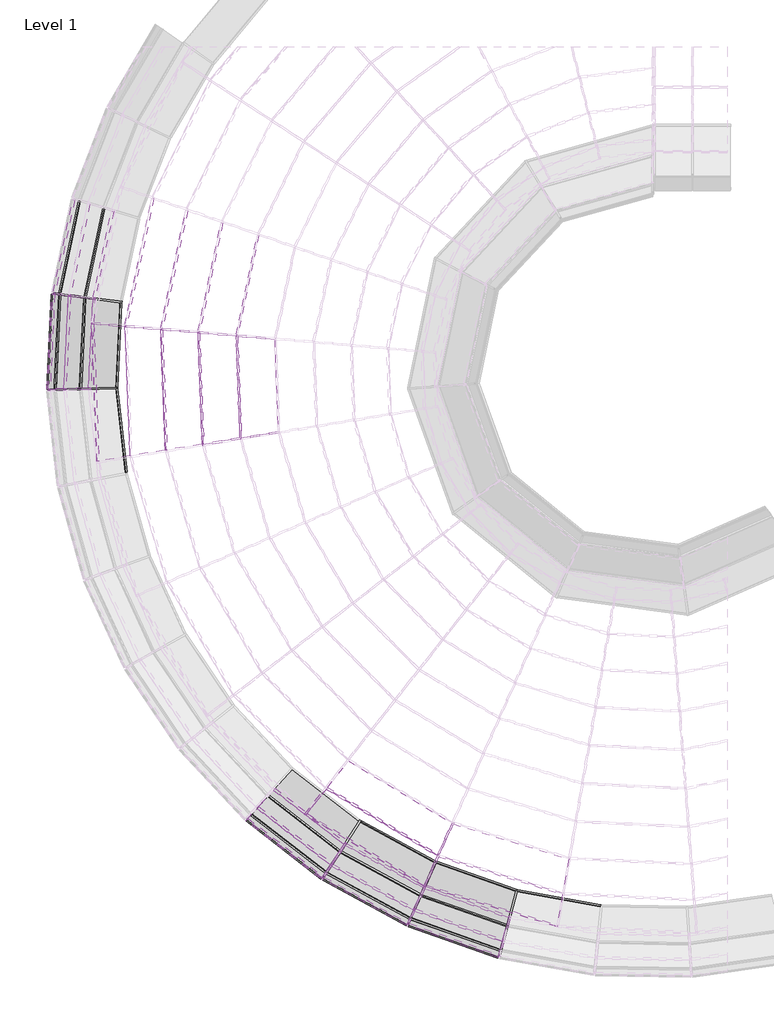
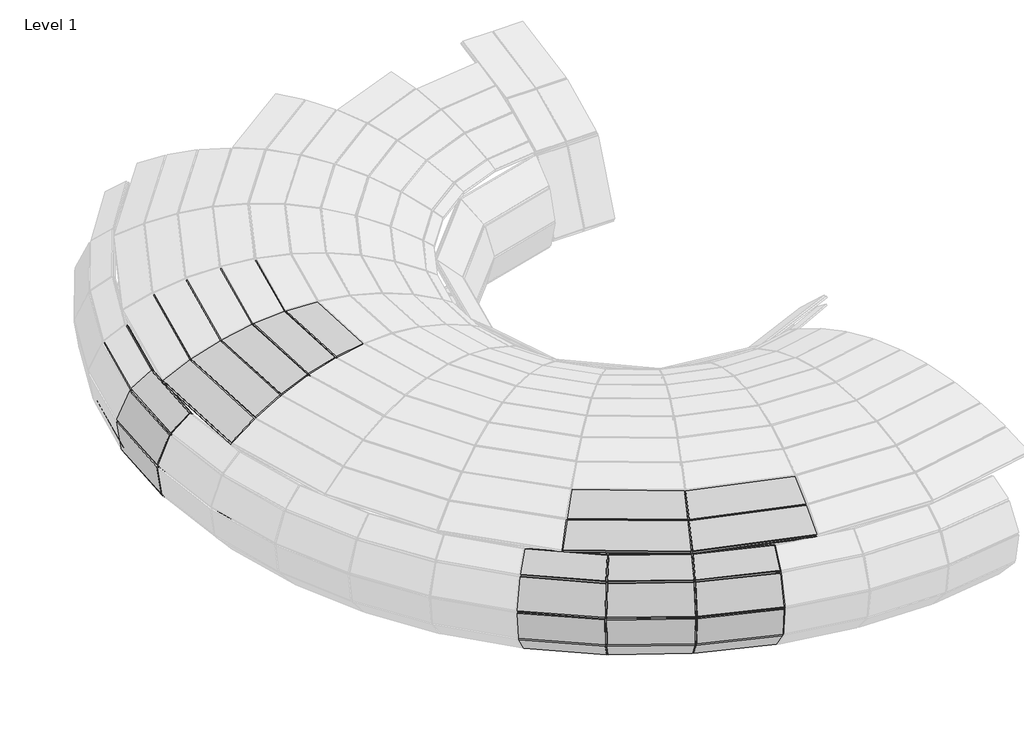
# One storey, part 2 of 23: 76 members, 29 plates.
"""IFC4 building model written with IfcOpenShell, lengths in millimetres."""

from ifc_helpers import new_model, si_unit, origin, place, context, project, spatial, transform, mapped, element, save
from components import member_d6b8231b, member_8c9da58c, member_391bee44, member_01ebdf2a, member_0cd36c09, member_e4cc2466, member_6c4aaba8, member_0ea93e7c, member_01d9c279, member_12c77cbe, member_af15374c, member_9c203333, member_86c07ba8, member_0e8a41c0, member_f532ae18, member_ff5bcfe9, member_5080b2ef, system_panel_glazed_a6d149b5, system_panel_glazed_185472ef, system_panel_glazed_d90a1b68, system_panel_glazed_7d733e69, system_panel_glazed_1f33159c, system_panel_glazed_020edd5b, system_panel_glazed_973a940c, system_panel_glazed_7e9fb579, system_panel_glazed_aab04364, system_panel_glazed_9094d4f4

model = new_model("IFC4")

# Units and contexts
model_context = context("Model", 3, world=origin())
ifc_project = project(units=[si_unit("LENGTHUNIT", "METRE", prefix="MILLI")], contexts=[model_context])

# Site, building, storey
site = spatial("IfcSite", under=ifc_project)
building = spatial("IfcBuilding", under=site)
storey = spatial("IfcBuildingStorey", under=building, Name="Level 1", Elevation=0.0)

# Members
placement = place(None, origin())
member_shape = member_d6b8231b(model_context)
element("IfcMember", 1, ObjectType="Rectangular Mullion : 1\" Square", at=placement, inside=storey, context=model_context, shape_type="MappedRepresentation", body=[
    mapped(member_shape, transform((-12070.44883, -9524.7265693, 0.0), x_axis=(0.9669205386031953, -0.2550777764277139, 0.0), y_axis=(-0.07149770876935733, -0.27102558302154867, -0.9599131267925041), z_axis=(0.2448525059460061, 0.9281597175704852, -0.28029767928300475))),
])
element("IfcMember", 2, ObjectType="Rectangular Mullion : 1\" Square", at=placement, inside=storey, context=model_context, shape_type="MappedRepresentation", body=[
    mapped(member_shape, transform((-13347.4345709, -9075.8381968, 0.0), x_axis=(0.913849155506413, -0.4060538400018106, 0.0), y_axis=(-0.11381594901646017, -0.25614979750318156, -0.959913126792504), z_axis=(0.38977641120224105, 0.8772158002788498, -0.2802976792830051))),
])
element("IfcMember", 3, ObjectType="Rectangular Mullion : 1\" Square", at=placement, inside=storey, context=model_context, shape_type="MappedRepresentation", body=[
    mapped(member_shape, transform((-14536.4619818, -8428.9941896, 0.0), x_axis=(0.8373737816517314, -0.5466307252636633, 0.0), y_axis=(-0.15321932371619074, -0.23471392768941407, -0.959913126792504), z_axis=(0.5247180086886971, 0.8038060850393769, -0.28029767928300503))),
])
element("IfcMember", 4, ObjectType="Rectangular Mullion : 1\" Square", at=placement, inside=storey, context=model_context, shape_type="MappedRepresentation", body=[
    mapped(member_shape, transform((-18367.0231077, -1610.5063544, 0.0), x_axis=(0.031234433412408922, -0.9995120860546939, 0.0), y_axis=(-0.2801609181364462, -0.008754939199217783, -0.9599131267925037), z_axis=(0.9594447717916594, 0.029982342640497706, -0.2802976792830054))),
])
element("IfcMember", 5, ObjectType="Rectangular Mullion : 1\" Square", at=placement, inside=storey, context=model_context, shape_type="MappedRepresentation", body=[
    mapped(member_shape, transform((-18300.9101584, -258.5365206, 0.0), x_axis=(-0.1286068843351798, -0.9916956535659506, 0.0), y_axis=(-0.2779699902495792, 0.0360482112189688, -0.9599131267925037), z_axis=(0.9519416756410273, -0.12345143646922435, -0.2802976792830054))),
])
member_2_shape = member_8c9da58c(model_context)
element("IfcMember", 6, ObjectType="Rectangular Mullion : 1\" Square", at=placement, inside=storey, context=model_context, shape_type="MappedRepresentation", body=[
    mapped(member_2_shape, transform((-18881.2138039, -183.2805249, 170.8694653), x_axis=(-0.12860688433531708, -0.9916956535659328, 0.0), y_axis=(-0.7465531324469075, 0.09681586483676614, -0.6582439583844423), z_axis=(0.6527776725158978, -0.08465470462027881, -0.7528046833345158))),
])
element("IfcMember", 7, ObjectType="Rectangular Mullion : 1\" Square", at=placement, inside=storey, context=model_context, shape_type="MappedRepresentation", body=[
    mapped(member_2_shape, transform((-19279.147073, -131.675017, 629.7792003), x_axis=(-0.12860688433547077, -0.9916956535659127, 0.0), y_axis=(-0.9805191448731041, 0.12715747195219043, -0.1497103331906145), z_axis=(0.14846708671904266, -0.019253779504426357, -0.988729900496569))),
])
element("IfcMember", 8, ObjectType="Rectangular Mullion : 1\" Square", at=placement, inside=storey, context=model_context, shape_type="MappedRepresentation", body=[
    mapped(member_2_shape, transform((-18951.9006405, -1628.7835904, 170.8694653), x_axis=(0.031234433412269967, -0.9995120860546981, 0.0), y_axis=(-0.7524373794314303, -0.023513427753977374, -0.658243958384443), z_axis=(0.6579227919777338, 0.020559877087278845, -0.7528046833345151))),
])
element("IfcMember", 9, ObjectType="Rectangular Mullion : 1\" Square", at=placement, inside=storey, context=model_context, shape_type="MappedRepresentation", body=[
    mapped(member_2_shape, transform((-14856.3300799, -8918.9943791, 170.8694653), x_axis=(0.8373737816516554, -0.5466307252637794, 0.0), y_axis=(-0.4115061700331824, -0.6303789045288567, -0.6582439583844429), z_axis=(0.3598163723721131, 0.5511962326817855, -0.7528046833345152))),
])
element("IfcMember", 10, ObjectType="Rectangular Mullion : 1\" Square", at=placement, inside=storey, context=model_context, shape_type="MappedRepresentation", body=[
    mapped(member_2_shape, transform((-13585.0422712, -9610.5889486, 170.8694653), x_axis=(0.9138491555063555, -0.40605384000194, 0.0), y_axis=(-0.3056792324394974, -0.6879499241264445, -0.658243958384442), z_axis=(0.2672824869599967, 0.6015356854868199, -0.7528046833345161))),
])
element("IfcMember", 11, ObjectType="Rectangular Mullion : 1\" Square", at=placement, inside=storey, context=model_context, shape_type="MappedRepresentation", body=[
    mapped(member_2_shape, transform((-12219.7109176, -10090.5327331, 170.8694653), x_axis=(0.9669205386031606, -0.2550777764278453, 0.0), y_axis=(-0.1920237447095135, -0.7279023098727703, -0.6582439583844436), z_axis=(0.1679034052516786, 0.6364696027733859, -0.7528046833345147))),
])
member_3_shape = member_391bee44(model_context)
element("IfcMember", 12, ObjectType="Rectangular Mullion : 1\" Square", at=placement, inside=storey, context=model_context, shape_type="MappedRepresentation", body=[
    mapped(member_3_shape, transform((-19369.6526091, -119.937913, 1232.5089476), x_axis=(-0.12860688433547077, -0.9916956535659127, 0.0), y_axis=(-0.9063401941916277, 0.11753766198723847, 0.4058723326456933), z_axis=(-0.4025018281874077, 0.05219797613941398, -0.9139297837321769))),
])
member_4_shape = member_01ebdf2a(model_context)
element("IfcMember", 13, ObjectType="Rectangular Mullion : 1\" Square", at=placement, inside=storey, context=model_context, shape_type="MappedRepresentation", body=[
    mapped(member_4_shape, transform((-19124.2874946, -151.7577992, 1789.6405438), x_axis=(-0.1286068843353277, -0.9916956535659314, 0.0), y_axis=(-0.5909117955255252, 0.07663170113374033, 0.8030883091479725), z_axis=(-0.7964191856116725, 0.10328268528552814, -0.5958600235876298))),
])
element("IfcMember", 14, ObjectType="Rectangular Mullion : 1\" Square", at=placement, inside=storey, context=model_context, shape_type="MappedRepresentation", body=[
    mapped(member_2_shape, transform((-19352.9703745, -1641.3168915, 629.7792003), x_axis=(0.031234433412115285, -0.9995120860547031, 0.0), y_axis=(-0.9882474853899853, -0.030882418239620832, -0.14971033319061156), z_axis=(0.14963728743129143, 0.0046761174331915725, -0.9887299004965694))),
])
element("IfcMember", 15, ObjectType="Rectangular Mullion : 1\" Square", at=placement, inside=storey, context=model_context, shape_type="MappedRepresentation", body=[
    mapped(member_2_shape, transform((-15075.6741405, -9255.0036025, 629.7792003), x_axis=(0.8373737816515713, -0.5466307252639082, 0.0), y_axis=(-0.5404701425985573, -0.8279364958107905, -0.1497103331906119), z_axis=(0.08183626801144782, 0.12536350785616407, -0.9887299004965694))),
])
element("IfcMember", 16, ObjectType="Rectangular Mullion : 1\" Square", at=placement, inside=storey, context=model_context, shape_type="MappedRepresentation", body=[
    mapped(member_2_shape, transform((-13747.9776752, -9977.2851025, 629.7792003), x_axis=(0.9138491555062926, -0.4060538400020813, 0.0), y_axis=(-0.40147757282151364, -0.9035499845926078, -0.14971033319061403), z_axis=(0.060790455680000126, 0.13681266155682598, -0.9887299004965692))),
])
element("IfcMember", 17, ObjectType="Rectangular Mullion : 1\" Square", at=placement, inside=storey, context=model_context, shape_type="MappedRepresentation", body=[
    mapped(member_2_shape, transform((-12322.0648334, -10478.524603, 629.7792003), x_axis=(0.9669205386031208, -0.25507777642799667, 0.0), y_axis=(-0.25220302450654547, -0.956023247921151, -0.14971033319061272), z_axis=(0.038187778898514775, 0.1447579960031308, -0.9887299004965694))),
])
element("IfcMember", 18, ObjectType="Rectangular Mullion : 1\" Square", at=placement, inside=storey, context=model_context, shape_type="MappedRepresentation", body=[
    mapped(member_3_shape, transform((-19444.189265, -1644.1674527, 1232.5089476), x_axis=(0.031234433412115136, -0.999512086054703, 0.0), y_axis=(-0.9134838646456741, -0.028546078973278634, 0.40587233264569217), z_axis=(-0.4056743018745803, -0.012677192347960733, -0.9139297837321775))),
])
element("IfcMember", 19, ObjectType="Rectangular Mullion : 1\" Square", at=placement, inside=storey, context=model_context, shape_type="MappedRepresentation", body=[
    mapped(member_3_shape, transform((-15125.5615295, -9331.4251969, 1232.5089476), x_axis=(0.8373737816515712, -0.5466307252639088, 0.0), y_axis=(-0.4995821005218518, -0.7653008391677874, 0.40587233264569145), z_axis=(-0.22186228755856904, -0.3398668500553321, -0.9139297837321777))),
])
element("IfcMember", 20, ObjectType="Rectangular Mullion : 1\" Square", at=placement, inside=storey, context=model_context, shape_type="MappedRepresentation", body=[
    mapped(member_3_shape, transform((-13785.035537, -10060.686101, 1232.5089476), x_axis=(0.9138491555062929, -0.406053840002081, 0.0), y_axis=(-0.3711046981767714, -0.8351939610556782, 0.40587233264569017), z_axis=(-0.16480601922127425, -0.370906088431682, -0.9139297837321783))),
])
element("IfcMember", 21, ObjectType="Rectangular Mullion : 1\" Square", at=placement, inside=storey, context=model_context, shape_type="MappedRepresentation", body=[
    mapped(member_3_shape, transform((-12345.3441035, -10566.7690773, 1232.5089476), x_axis=(0.9669205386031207, -0.255077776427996, 0.0), y_axis=(-0.23312317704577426, -0.8836974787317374, 0.4058723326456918), z_axis=(-0.10352901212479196, -0.3924462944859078, -0.9139297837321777))),
])
element("IfcMember", 22, ObjectType="Rectangular Mullion : 1\" Square", at=placement, inside=storey, context=model_context, shape_type="MappedRepresentation", body=[
    mapped(member_4_shape, transform((-19196.8902105, -1636.4394362, 1789.6405438), x_axis=(0.031234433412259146, -0.9995120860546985, 0.0), y_axis=(-0.5955692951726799, -0.018611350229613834, 0.8030883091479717), z_axis=(-0.802696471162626, -0.0250840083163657, -0.5958600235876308))),
])
element("IfcMember", 23, ObjectType="Rectangular Mullion : 1\" Square", at=placement, inside=storey, context=model_context, shape_type="MappedRepresentation", body=[
    mapped(member_4_shape, transform((-14990.314279, -9124.2423651, 1789.6405438), x_axis=(0.8373737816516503, -0.5466307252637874, 0.0), y_axis=(-0.3257153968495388, -0.4989575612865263, 0.8030883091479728), z_axis=(-0.4389927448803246, -0.6724850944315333, -0.5958600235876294))),
])
element("IfcMember", 24, ObjectType="Rectangular Mullion : 1\" Square", at=placement, inside=storey, context=model_context, shape_type="MappedRepresentation", body=[
    mapped(member_4_shape, transform((-13684.5697877, -9834.5817495, 1789.6405438), x_axis=(0.9138491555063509, -0.40605384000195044, 0.0), y_axis=(-0.24195125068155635, -0.5445261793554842, 0.8030883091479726), z_axis=(-0.3260970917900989, -0.7339015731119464, -0.5958600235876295))),
])
element("IfcMember", 25, ObjectType="Rectangular Mullion : 1\" Square", at=placement, inside=storey, context=model_context, shape_type="MappedRepresentation", body=[
    mapped(member_4_shape, transform((-12282.2328177, -10327.5338162, 1789.6405438), x_axis=(0.9669205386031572, -0.25507777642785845, 0.0), y_axis=(-0.15199064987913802, -0.5761492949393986, 0.8030883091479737), z_axis=(-0.204849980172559, -0.7765225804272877, -0.5958600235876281))),
])
member_5_shape = member_0cd36c09(model_context)
element("IfcMember", 26, ObjectType="Rectangular Mullion : 1\" Square", at=placement, inside=storey, context=model_context, shape_type="MappedRepresentation", body=[
    mapped(member_5_shape, transform((-18237.2761871, -632.6366236, 2378.3537392), x_axis=(-0.08542121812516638, -0.9963449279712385, 0.0), y_axis=(-0.37101283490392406, 0.03180863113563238, 0.9280828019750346), z_axis=(-0.9246905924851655, 0.0792779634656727, -0.37237388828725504))),
])
element("IfcMember", 27, ObjectType="Rectangular Mullion : 1\" Square", at=placement, inside=storey, context=model_context, shape_type="MappedRepresentation", body=[
    mapped(member_5_shape, transform((-17673.584802, -680.9644702, 2605.3528615), x_axis=(-0.08542121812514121, -0.9963449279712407, 0.0), y_axis=(-0.25827840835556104, 0.022143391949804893, 0.965816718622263), z_axis=(-0.9622865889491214, 0.08250124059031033, -0.259225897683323))),
])
element("IfcMember", 28, ObjectType="Rectangular Mullion : 1\" Square", at=placement, inside=storey, context=model_context, shape_type="MappedRepresentation", body=[
    mapped(member_5_shape, transform((-17086.9748973, -731.2572264, 2763.3769688), x_axis=(-0.0854212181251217, -0.9963449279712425, 0.0), y_axis=(-0.14186963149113, 0.01216313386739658, 0.9898106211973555), z_axis=(-0.9861927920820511, 0.08455082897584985, -0.14239007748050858))),
])
element("IfcMember", 29, ObjectType="Rectangular Mullion : 1\" Square", at=placement, inside=storey, context=model_context, shape_type="MappedRepresentation", body=[
    mapped(member_5_shape, transform((-16485.7917713, -782.7994118, 2850.17796), x_axis=(-0.0854212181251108, -0.9963449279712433, 0.0), y_axis=(-0.023442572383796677, 0.0020098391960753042, 0.9997231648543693), z_axis=(-0.9960691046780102, 0.08539757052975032, -0.02352857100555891))),
])
element("IfcMember", 30, ObjectType="Rectangular Mullion : 1\" Square", at=placement, inside=storey, context=model_context, shape_type="MappedRepresentation", body=[
    mapped(member_5_shape, transform((-17018.9933415, -2507.8194101, 2763.3769688), x_axis=(0.16131178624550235, -0.9869034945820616, 0.0), y_axis=(-0.14052526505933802, -0.022969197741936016, 0.9898106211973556), z_axis=(-0.9768475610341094, -0.15966811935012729, -0.14239007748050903))),
])
element("IfcMember", 31, ObjectType="Rectangular Mullion : 1\" Square", at=placement, inside=storey, context=model_context, shape_type="MappedRepresentation", body=[
    mapped(member_5_shape, transform((-13309.019217, -8979.8285181, 2378.3537392), x_axis=(0.9136605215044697, -0.4064781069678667, 0.0), y_axis=(-0.15136183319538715, -0.34022332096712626, 0.9280828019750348), z_axis=(-0.3772453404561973, -0.8479526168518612, -0.37237388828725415))),
])
element("IfcMember", 32, ObjectType="Rectangular Mullion : 1\" Square", at=placement, inside=storey, context=model_context, shape_type="MappedRepresentation", body=[
    mapped(member_5_shape, transform((-16423.5070683, -2410.4857246, 2850.17796), x_axis=(0.16131178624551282, -0.9869034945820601, 0.0), y_axis=(-0.023220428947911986, -0.003795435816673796, 0.9997231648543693), z_axis=(-0.9866302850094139, -0.16126712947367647, -0.023528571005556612))),
])
member_6_shape = member_e4cc2466(model_context)
element("IfcMember", 33, ObjectType="Rectangular Mullion : 1\" Square", at=placement, inside=storey, context=model_context, shape_type="MappedRepresentation", body=[
    mapped(member_6_shape, transform((-18770.029801, -586.9612141, 2085.6089632), x_axis=(-0.0854212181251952, -0.9963449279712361, 0.0), y_axis=(-0.47846911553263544, 0.04102135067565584, 0.8771456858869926), z_axis=(-0.8739396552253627, 0.0749268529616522, -0.4802243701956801))),
])
element("IfcMember", 34, ObjectType="Rectangular Mullion : 1\" Square", at=placement, inside=storey, context=model_context, shape_type="MappedRepresentation", body=[
    mapped(member_6_shape, transform((-13526.3663167, -9468.3701175, 2085.6089632), x_axis=(0.913660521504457, -0.40647810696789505, 0.0), y_axis=(-0.195200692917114, -0.4387620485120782, 0.8771456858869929), z_axis=(-0.3565405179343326, -0.8014133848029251, -0.48022437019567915))),
])
element("IfcMember", 35, ObjectType="Rectangular Mullion : 1\" Square", at=placement, inside=storey, context=model_context, shape_type="MappedRepresentation", body=[
    mapped(member_6_shape, transform((-15406.320875, -8335.4081811, 2085.6089632), x_axis=(0.786212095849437, -0.6179567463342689, 0.0), y_axis=(-0.2967578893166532, -0.3775582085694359, 0.877145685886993), z_axis=(-0.5420380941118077, -0.689622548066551, -0.48022437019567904))),
])
member_7_shape = member_6c4aaba8(model_context)
element("IfcMember", 36, ObjectType="Rectangular Mullion : 1\" Square", at=placement, inside=storey, context=model_context, shape_type="MappedRepresentation", body=[
    mapped(member_7_shape, transform((-18234.6374664, -620.2137756, 2378.3537392), x_axis=(0.8858068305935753, -0.18815306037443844, 0.42419887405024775), y_axis=(-0.41494158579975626, 0.08813719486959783, 0.9055690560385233), z_axis=(-0.20777328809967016, -0.9781770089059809, 0.0))),
])
element("IfcMember", 37, ObjectType="Rectangular Mullion : 1\" Square", at=placement, inside=storey, context=model_context, shape_type="MappedRepresentation", body=[
    mapped(member_7_shape, transform((-13319.8966208, -8973.2732084, 2378.3537392), x_axis=(0.4674240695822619, 0.7756094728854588, 0.42419887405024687), y_axis=(-0.21895708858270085, -0.363321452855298, 0.9055690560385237), z_axis=(0.8564884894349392, -0.516166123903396, 0.0))),
])
member_8_shape = member_0ea93e7c(model_context)
element("IfcMember", 38, ObjectType="Rectangular Mullion : 1\" Square", at=placement, inside=storey, context=model_context, shape_type="MappedRepresentation", body=[
    mapped(member_8_shape, transform((-17084.3361766, -718.8343784, 2763.3769688), x_axis=(0.9585255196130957, -0.20359914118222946, 0.19943976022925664), y_axis=(-0.19508738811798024, 0.041438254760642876, 0.9799100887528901), z_axis=(-0.2077732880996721, -0.9781770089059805, 0.0))),
])
element("IfcMember", 39, ObjectType="Rectangular Mullion : 1\" Square", at=placement, inside=storey, context=model_context, shape_type="MappedRepresentation", body=[
    mapped(member_8_shape, transform((-17019.4789616, -2495.128698, 2763.3769688), x_axis=(0.979193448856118, 0.03746961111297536, 0.19943976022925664), y_axis=(-0.1992939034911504, -0.007626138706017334, 0.97991008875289), z_axis=(0.038237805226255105, -0.9992686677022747, 0.0))),
])
member_9_shape = member_01d9c279(model_context)
element("IfcMember", 40, ObjectType="Rectangular Mullion : 1\" Square", at=placement, inside=storey, context=model_context, shape_type="MappedRepresentation", body=[
    mapped(member_9_shape, transform((-16483.1530505, -770.3765638, 2850.17796), x_axis=(0.9748671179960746, -0.20707023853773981, 0.08219500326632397), y_axis=(-0.0804012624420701, 0.01707792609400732, 0.9966162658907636), z_axis=(-0.20777328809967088, -0.9781770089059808, 0.0))),
])
element("IfcMember", 41, ObjectType="Rectangular Mullion : 1\" Square", at=placement, inside=storey, context=model_context, shape_type="MappedRepresentation", body=[
    mapped(member_9_shape, transform((-16423.9926884, -2397.7950125, 2850.17796), x_axis=(0.9958874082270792, 0.038108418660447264, 0.08219500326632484), y_axis=(-0.08213489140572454, -0.003142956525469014, 0.9966162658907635), z_axis=(0.038237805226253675, -0.9992686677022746, 0.0))),
])
member_10_shape = member_12c77cbe(model_context)
element("IfcMember", 42, ObjectType="Rectangular Mullion : 1\" Square", at=placement, inside=storey, context=model_context, shape_type="MappedRepresentation", body=[
    mapped(member_10_shape, transform((-17600.5301102, -2590.1029272, 2605.3528615), x_axis=(0.9487397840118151, 0.036304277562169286, 0.3139662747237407), y_axis=(-0.3137366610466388, -0.012005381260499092, 0.9494341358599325), z_axis=(0.03823780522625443, -0.9992686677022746, 0.0))),
])
element("IfcMember", 43, ObjectType="Rectangular Mullion : 1\" Square", at=placement, inside=storey, context=model_context, shape_type="MappedRepresentation", body=[
    mapped(member_10_shape, transform((-17670.9460812, -668.5416221, 2605.3528615), x_axis=(0.9287146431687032, -0.19726705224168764, 0.3139662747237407), y_axis=(-0.3071145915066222, 0.06523380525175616, 0.9494341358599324), z_axis=(-0.20777328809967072, -0.9781770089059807, 0.0))),
])
member_11_shape = member_af15374c(model_context)
element("IfcMember", 44, ObjectType="Rectangular Mullion : 1\" Square", at=placement, inside=storey, context=model_context, shape_type="MappedRepresentation", body=[
    mapped(member_11_shape, transform((-18769.5441808, -599.6519261, 2085.6089632), x_axis=(-0.874944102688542, -0.03348042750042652, -0.48306508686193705), y_axis=(-0.4827118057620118, -0.018471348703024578, 0.8755844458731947), z_axis=(-0.038237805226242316, 0.9992686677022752, 0.0))),
])
element("IfcMember", 45, ObjectType="Rectangular Mullion : 1\" Square", at=placement, inside=storey, context=model_context, shape_type="MappedRepresentation", body=[
    mapped(member_11_shape, transform((-15395.4434712, -8341.9634909, 2085.6089632), x_axis=(-0.4519470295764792, -0.7499279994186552, -0.4830650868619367), y_axis=(-0.24934183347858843, -0.4137396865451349, 0.8755844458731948), z_axis=(-0.8564884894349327, 0.5161661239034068, 0.0))),
])
element("IfcMember", 46, ObjectType="Rectangular Mullion : 1\" Square", at=placement, inside=storey, context=model_context, shape_type="MappedRepresentation", body=[
    mapped(member_11_shape, transform((-13514.2142778, -9472.0603684, 2085.6089632), x_axis=(-0.2544193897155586, -0.8378060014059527, -0.4830650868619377), y_axis=(-0.1403646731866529, -0.4622224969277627, 0.8755844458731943), z_axis=(-0.9568534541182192, 0.2905709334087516, 0.0))),
])
member_12_shape = member_9c203333(model_context)
element("IfcMember", 47, ObjectType="Rectangular Mullion : 1\" Square", at=placement, inside=storey, context=model_context, shape_type="MappedRepresentation", body=[
    mapped(member_12_shape, transform((-18301.5304624, -271.2213628, 0.0), x_axis=(0.9585248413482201, -0.0468730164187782, -0.28112817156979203), y_axis=(-0.28079263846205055, 0.013731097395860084, -0.9596702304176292), z_axis=(0.04884283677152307, 0.9988064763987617, 0.0))),
])
element("IfcMember", 48, ObjectType="Rectangular Mullion : 1\" Square", at=placement, inside=storey, context=model_context, shape_type="MappedRepresentation", body=[
    mapped(member_12_shape, transform((-18365.6119929, -1623.1277154, 0.0), x_axis=(0.9537279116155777, 0.10663030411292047, -0.281128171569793), y_axis=(-0.27938741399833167, -0.031236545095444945, -0.959670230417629), z_axis=(-0.11111140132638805, 0.9938079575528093, 0.0))),
])
element("IfcMember", 49, ObjectType="Rectangular Mullion : 1\" Square", at=placement, inside=storey, context=model_context, shape_type="MappedRepresentation", body=[
    mapped(member_12_shape, transform((-14525.3059451, -8435.0631965, 0.0), x_axis=(0.45860198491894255, 0.8430012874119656, -0.28112817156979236), y_axis=(-0.13434400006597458, -0.24695088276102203, -0.9596702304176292), z_axis=(-0.8784280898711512, 0.4778745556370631, 0.0))),
])
element("IfcMember", 50, ObjectType="Rectangular Mullion : 1\" Square", at=placement, inside=storey, context=model_context, shape_type="MappedRepresentation", body=[
    mapped(member_12_shape, transform((-13335.4532661, -9080.0498871, 0.0), x_axis=(0.31825462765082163, 0.9053623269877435, -0.2811281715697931), y_axis=(-0.09323029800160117, -0.2652190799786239, -0.959670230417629), z_axis=(-0.9434098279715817, 0.33162915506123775, 0.0))),
])
element("IfcMember", 51, ObjectType="Rectangular Mullion : 1\" Square", at=placement, inside=storey, context=model_context, shape_type="MappedRepresentation", body=[
    mapped(member_12_shape, transform((-12057.9491024, -9526.9730801, 0.0), x_axis=(0.1697566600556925, 0.9445367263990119, -0.2811281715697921), y_axis=(-0.04972893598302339, -0.2766949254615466, -0.9596702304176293), z_axis=(-0.9842305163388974, 0.17689061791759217, 0.0))),
])
member_13_shape = member_86c07ba8(model_context)
element("IfcMember", 52, ObjectType="Rectangular Mullion : 1\" Square", at=placement, inside=storey, context=model_context, shape_type="MappedRepresentation", body=[
    mapped(member_13_shape, transform((-18878.5779672, -170.8570646, 170.8694653), x_axis=(-0.8256616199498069, 0.1751773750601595, 0.536279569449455), y_axis=(-0.524602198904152, 0.11130278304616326, -0.8440404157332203), z_axis=(-0.2075461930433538, -0.9782252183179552, 0.0))),
])
element("IfcMember", 53, ObjectType="Rectangular Mullion : 1\" Square", at=placement, inside=storey, context=model_context, shape_type="MappedRepresentation", body=[
    mapped(member_13_shape, transform((-18951.2803365, -1616.0987482, 170.8694653), x_axis=(-0.8430330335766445, 0.04122532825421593, 0.5362795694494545), y_axis=(-0.5356395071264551, 0.02619341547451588, -0.8440404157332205), z_axis=(-0.04884283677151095, -0.9988064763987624, 0.0))),
])
element("IfcMember", 54, ObjectType="Rectangular Mullion : 1\" Square", at=placement, inside=storey, context=model_context, shape_type="MappedRepresentation", body=[
    mapped(member_13_shape, transform((-14866.3751386, -8911.223485, 170.8694653), x_axis=(-0.5164526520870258, -0.6675933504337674, 0.5362795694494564), y_axis=(-0.32813950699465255, -0.42417006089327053, -0.8440404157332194), z_axis=(0.7909495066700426, -0.611881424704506, 0.0))),
])
element("IfcMember", 55, ObjectType="Rectangular Mullion : 1\" Square", at=placement, inside=storey, context=model_context, shape_type="MappedRepresentation", body=[
    mapped(member_13_shape, transform((-13596.1983079, -9604.5199418, 170.8694653), x_axis=(-0.4033454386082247, -0.7414288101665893, 0.5362795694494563), y_axis=(-0.2562743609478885, -0.4710830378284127, -0.8440404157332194), z_axis=(0.8784280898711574, -0.4778745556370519, 0.0))),
])
element("IfcMember", 56, ObjectType="Rectangular Mullion : 1\" Square", at=placement, inside=storey, context=model_context, shape_type="MappedRepresentation", body=[
    mapped(member_13_shape, transform((-12231.6922224, -10086.3210429, 170.8694653), x_axis=(-0.2799084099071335, -0.7962760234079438, 0.5362795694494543), y_axis=(-0.17784594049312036, -0.505931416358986, -0.8440404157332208), z_axis=(0.9434098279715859, -0.3316291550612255, 0.0))),
])
member_14_shape = member_0e8a41c0(model_context)
element("IfcMember", 57, ObjectType="Rectangular Mullion : 1\" Square", at=placement, inside=storey, context=model_context, shape_type="MappedRepresentation", body=[
    mapped(member_14_shape, transform((-19276.5112364, -119.2515567, 629.7792003), x_axis=(-0.41308319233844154, 0.08764223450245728, 0.9064662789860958), y_axis=(-0.8867281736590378, 0.18813362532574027, -0.4222782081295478), z_axis=(-0.2075461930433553, -0.9782252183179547, 0.0))),
])
element("IfcMember", 58, ObjectType="Rectangular Mullion : 1\" Square", at=placement, inside=storey, context=model_context, shape_type="MappedRepresentation", body=[
    mapped(member_14_shape, transform((-19352.3500705, -1628.6320493, 629.7792003), x_axis=(-0.42177420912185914, 0.020625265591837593, 0.9064662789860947), y_axis=(-0.9053843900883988, 0.04427438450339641, -0.42227820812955), z_axis=(-0.0488428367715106, -0.9988064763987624, 0.0))),
])
element("IfcMember", 59, ObjectType="Rectangular Mullion : 1\" Square", at=placement, inside=storey, context=model_context, shape_type="MappedRepresentation", body=[
    mapped(member_14_shape, transform((-15085.7191992, -9247.2327084, 629.7792003), x_axis=(-0.25838419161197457, -0.3340007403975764, 0.9064662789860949), y_axis=(-0.5546498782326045, -0.7169690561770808, -0.42227820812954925), z_axis=(0.7909495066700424, -0.6118814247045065, 0.0))),
])
element("IfcMember", 60, ObjectType="Rectangular Mullion : 1\" Square", at=placement, inside=storey, context=model_context, shape_type="MappedRepresentation", body=[
    mapped(member_14_shape, transform((-13759.133712, -9971.2160957, 629.7792003), x_axis=(-0.2017960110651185, -0.3709410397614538, 0.9064662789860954), y_axis=(-0.4331771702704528, -0.7962654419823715, -0.4222782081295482), z_axis=(0.8784280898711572, -0.4778745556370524, 0.0))),
])
element("IfcMember", 61, ObjectType="Rectangular Mullion : 1\" Square", at=placement, inside=storey, context=model_context, shape_type="MappedRepresentation", body=[
    mapped(member_14_shape, transform((-12334.0461382, -10474.3129127, 629.7792003), x_axis=(-0.1400397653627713, -0.39838141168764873, 0.9064662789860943), y_axis=(-0.300610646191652, -0.8551691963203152, -0.4222782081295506), z_axis=(0.943409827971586, -0.3316291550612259, 0.0))),
])
member_15_shape = member_f532ae18(model_context)
element("IfcMember", 62, ObjectType="Rectangular Mullion : 1\" Square", at=placement, inside=storey, context=model_context, shape_type="MappedRepresentation", body=[
    mapped(member_15_shape, transform((-19367.0167724, -107.5144527, 1232.5089476), x_axis=(0.13104349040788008, -0.027802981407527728, 0.9909866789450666), y_axis=(-0.9694081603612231, 0.20567551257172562, 0.13396044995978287), z_axis=(-0.20754619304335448, -0.978225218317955, 0.0))),
])
element("IfcMember", 63, ObjectType="Rectangular Mullion : 1\" Square", at=placement, inside=storey, context=model_context, shape_type="MappedRepresentation", body=[
    mapped(member_15_shape, transform((-19443.5689609, -1631.4826104, 1232.5089476), x_axis=(0.13380056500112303, -0.006543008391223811, 0.9909866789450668), y_axis=(-0.9898039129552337, 0.04840260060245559, 0.13396044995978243), z_axis=(-0.04884283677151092, -0.9988064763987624, 0.0))),
])
element("IfcMember", 64, ObjectType="Rectangular Mullion : 1\" Square", at=placement, inside=storey, context=model_context, shape_type="MappedRepresentation", body=[
    mapped(member_15_shape, transform((-15135.6065882, -9323.6543028, 1232.5089476), x_axis=(0.08196791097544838, 0.10595595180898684, 0.9909866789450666), y_axis=(-0.6063663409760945, -0.7838204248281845, 0.13396044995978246), z_axis=(0.7909495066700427, -0.6118814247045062, 0.0))),
])
element("IfcMember", 65, ObjectType="Rectangular Mullion : 1\" Square", at=placement, inside=storey, context=model_context, shape_type="MappedRepresentation", body=[
    mapped(member_15_shape, transform((-13796.1915737, -10054.6170941, 1232.5089476), x_axis=(0.06401629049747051, 0.11767462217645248, 0.9909866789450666), y_axis=(-0.47356731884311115, -0.870510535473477, 0.13396044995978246), z_axis=(0.8784280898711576, -0.4778745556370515, 0.0))),
])
element("IfcMember", 66, ObjectType="Rectangular Mullion : 1\" Square", at=placement, inside=storey, context=model_context, shape_type="MappedRepresentation", body=[
    mapped(member_15_shape, transform((-12357.3254083, -10562.5573871, 1232.5089476), x_axis=(0.04442519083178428, 0.1263796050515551, 0.9909866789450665), y_axis=(-0.32864007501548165, -0.934906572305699, 0.13396044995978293), z_axis=(0.9434098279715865, -0.33162915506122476, 0.0))),
])
member_16_shape = member_ff5bcfe9(model_context)
element("IfcMember", 67, ObjectType="Rectangular Mullion : 1\" Square", at=placement, inside=storey, context=model_context, shape_type="MappedRepresentation", body=[
    mapped(member_16_shape, transform((-19121.651658, -139.334339, 1789.6405438), x_axis=(0.6333020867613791, -0.1343652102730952, 0.7621512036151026), y_axis=(-0.7455555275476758, 0.1581815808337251, 0.6473990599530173), z_axis=(-0.20754619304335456, -0.978225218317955, 0.0))),
])
element("IfcMember", 68, ObjectType="Rectangular Mullion : 1\" Square", at=placement, inside=storey, context=model_context, shape_type="MappedRepresentation", body=[
    mapped(member_16_shape, transform((-19196.2699065, -1623.754594, 1789.6405438), x_axis=(0.6466263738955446, -0.03162080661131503, 0.7621512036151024), y_axis=(-0.7612415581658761, 0.03722562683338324, 0.6473990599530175), z_axis=(-0.0488428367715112, -0.9988064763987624, 0.0))),
])
element("IfcMember", 69, ObjectType="Rectangular Mullion : 1\" Square", at=placement, inside=storey, context=model_context, shape_type="MappedRepresentation", body=[
    mapped(member_16_shape, transform((-15000.3593377, -9116.471471, 1789.6405438), x_axis=(0.3961314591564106, 0.5120599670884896, 0.7621512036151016), y_axis=(-0.46634616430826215, -0.602823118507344, 0.6473990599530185), z_axis=(0.7909495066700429, -0.6118814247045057, 0.0))),
])
element("IfcMember", 70, ObjectType="Rectangular Mullion : 1\" Square", at=placement, inside=storey, context=model_context, shape_type="MappedRepresentation", body=[
    mapped(member_16_shape, transform((-13695.7258244, -9828.5127426, 1789.6405438), x_axis=(0.30937553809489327, 0.5686935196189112, 0.7621512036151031), y_axis=(-0.36421266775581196, -0.6694950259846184, 0.6473990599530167), z_axis=(0.8784280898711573, -0.47787455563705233, 0.0))),
])
element("IfcMember", 71, ObjectType="Rectangular Mullion : 1\" Square", at=placement, inside=storey, context=model_context, shape_type="MappedRepresentation", body=[
    mapped(member_16_shape, transform((-12294.2141225, -10323.322126, 1789.6405438), x_axis=(0.21469640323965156, 0.610762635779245, 0.7621512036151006), y_axis=(-0.2527515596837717, -0.7190209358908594, 0.6473990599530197), z_axis=(0.9434098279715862, -0.3316291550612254, 0.0))),
])
member_17_shape = member_5080b2ef(model_context)
element("IfcMember", 72, ObjectType="Rectangular Mullion : 1\" Square", at=placement, inside=storey, context=model_context, shape_type="MappedRepresentation", body=[
    mapped(member_17_shape, transform((-18726.0639055, -190.6356713, 2085.6089632), x_axis=(0.784704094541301, -0.1664875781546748, 0.5970941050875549), y_axis=(-0.5840925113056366, 0.12392460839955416, 0.8021711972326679), z_axis=(-0.2075461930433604, -0.9782252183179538, 0.0))),
])
element("IfcMember", 73, ObjectType="Rectangular Mullion : 1\" Square", at=placement, inside=storey, context=model_context, shape_type="MappedRepresentation", body=[
    mapped(member_17_shape, transform((-18797.5641763, -1611.2951673, 2085.6089632), x_axis=(0.8012137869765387, -0.03918031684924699, 0.5970941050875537), y_axis=(-0.5963814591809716, 0.029163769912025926, 0.8021711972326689), z_axis=(-0.04884283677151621, -0.9988064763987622, 0.0))),
])
element("IfcMember", 74, ObjectType="Rectangular Mullion : 1\" Square", at=placement, inside=storey, context=model_context, shape_type="MappedRepresentation", body=[
    mapped(member_17_shape, transform((-14782.308145, -8782.4427687, 2085.6089632), x_axis=(0.49083365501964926, 0.6344769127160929, 0.5970941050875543), y_axis=(-0.3653507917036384, -0.47227128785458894, 0.8021711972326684), z_axis=(0.790949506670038, -0.611881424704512, 0.0))),
])
element("IfcMember", 75, ObjectType="Rectangular Mullion : 1\" Square", at=placement, inside=storey, context=model_context, shape_type="MappedRepresentation", body=[
    mapped(member_17_shape, transform((-13533.7508017, -9463.9779862, 2085.6089632), x_axis=(0.3833372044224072, 0.7046497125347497, 0.5970941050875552), y_axis=(-0.28533608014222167, -0.5245042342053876, 0.8021711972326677), z_axis=(0.8784280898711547, -0.47787455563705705, 0.0))),
])
element("IfcMember", 76, ObjectType="Rectangular Mullion : 1\" Square", at=placement, inside=storey, context=model_context, shape_type="MappedRepresentation", body=[
    mapped(member_17_shape, transform((-12192.4635058, -9937.6171757, 2085.6089632), x_axis=(0.2660233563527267, 0.7567761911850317, 0.5970941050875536), y_axis=(-0.19801381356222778, -0.5633044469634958, 0.802171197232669), z_axis=(0.943409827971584, -0.33162915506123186, 0.0))),
])

# Plates
system_panel_glazed_shape = system_panel_glazed_a6d149b5(model_context)
element("IfcPlate", 77, ObjectType="System Panel : Glazed", at=placement, inside=storey, context=model_context, shape_type="MappedRepresentation", body=[
    mapped(system_panel_glazed_shape, transform((-18705.8410705, -1682.7861956, 2097.8788164), x_axis=(0.038237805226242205, -0.9992686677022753, 0.0), y_axis=(0.4827118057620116, 0.018471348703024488, -0.8755844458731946), z_axis=(0.874944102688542, 0.033480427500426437, 0.483065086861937))),
])
element("IfcPlate", 78, ObjectType="System Panel : Glazed", at=placement, inside=storey, context=model_context, shape_type="MappedRepresentation", body=[
    mapped(system_panel_glazed_shape, transform((-14454.8641413, -8882.8409781, 2097.8788164), x_axis=(0.8564884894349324, -0.5161661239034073, 0.0), y_axis=(0.24934183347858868, 0.41373968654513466, -0.8755844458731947), z_axis=(0.4519470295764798, 0.749927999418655, 0.4830650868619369))),
])
element("IfcPlate", 79, ObjectType="System Panel : Glazed", at=placement, inside=storey, context=model_context, shape_type="MappedRepresentation", body=[
    mapped(system_panel_glazed_shape, transform((-12469.7784438, -9765.9850535, 2097.8788164), x_axis=(0.9568534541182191, -0.2905709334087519, 0.0), y_axis=(0.14036467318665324, 0.46222249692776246, -0.8755844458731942), z_axis=(0.2544193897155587, 0.8378060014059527, 0.48306508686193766))),
])
system_panel_glazed_2_shape = system_panel_glazed_185472ef(model_context)
element("IfcPlate", 80, ObjectType="System Panel : Glazed", at=placement, inside=storey, context=model_context, shape_type="MappedRepresentation", body=[
    mapped(system_panel_glazed_2_shape, transform((-18186.0698287, -1662.8967383, 2383.1142391), x_axis=(0.03823780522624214, -0.9992686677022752, 0.0), y_axis=(0.37456837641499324, 0.014333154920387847, -0.9270885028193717), z_axis=(0.9264104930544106, 0.03544982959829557, 0.37484251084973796))),
])
element("IfcPlate", 81, ObjectType="System Panel : Glazed", at=placement, inside=storey, context=model_context, shape_type="MappedRepresentation", body=[
    mapped(system_panel_glazed_2_shape, transform((-14186.3794826, -8437.337081, 2383.1142391), x_axis=(0.8564884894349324, -0.5161661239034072, 0.0), y_axis=(0.1934810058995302, 0.3210482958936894, -0.9270885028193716), z_axis=(0.4785316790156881, 0.7940406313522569, 0.374842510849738))),
])
element("IfcPlate", 82, ObjectType="System Panel : Glazed", at=placement, inside=storey, context=model_context, shape_type="MappedRepresentation", body=[
    mapped(system_panel_glazed_2_shape, transform((-12318.6374946, -9268.2761548, 2383.1142391), x_axis=(0.956853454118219, -0.2905709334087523, 0.0), y_axis=(0.1089183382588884, 0.35866935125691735, -0.9270885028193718), z_axis=(0.2693849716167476, 0.8870878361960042, 0.3748425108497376))),
])
system_panel_glazed_3_shape = system_panel_glazed_d90a1b68(model_context)
element("IfcPlate", 83, ObjectType="System Panel : Glazed", at=placement, inside=storey, context=model_context, shape_type="MappedRepresentation", body=[
    mapped(system_panel_glazed_3_shape, transform((-17624.5641131, -1641.4102784, 2608.668686), x_axis=(0.03823780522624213, -0.9992686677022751, 0.0), y_axis=(0.26089759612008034, 0.009983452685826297, -0.9653148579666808), z_axis=(0.9646088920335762, 0.036911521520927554, 0.261088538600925))),
])
system_panel_glazed_4_shape = system_panel_glazed_7d733e69(model_context)
element("IfcPlate", 84, ObjectType="System Panel : Glazed", at=placement, inside=storey, context=model_context, shape_type="MappedRepresentation", body=[
    mapped(system_panel_glazed_4_shape, transform((-17040.4246882, -1619.0577217, 2765.1989775), x_axis=(0.03823780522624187, -0.9992686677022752, 0.0), y_axis=(0.14336033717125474, 0.005485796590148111, -0.9896553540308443), z_axis=(0.9889315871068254, 0.037842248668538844, 0.14346525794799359))),
])
system_panel_glazed_5_shape = system_panel_glazed_1f33159c(model_context)
element("IfcPlate", 85, ObjectType="System Panel : Glazed", at=placement, inside=storey, context=model_context, shape_type="MappedRepresentation", body=[
    mapped(system_panel_glazed_5_shape, transform((-16441.9622753, -1596.1570846, 2850.4790751), x_axis=(0.03823780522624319, -0.9992686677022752, 0.0), y_axis=(0.023692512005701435, 0.0009066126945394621, -0.9997188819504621), z_axis=(0.9989877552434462, 0.038227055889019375, 0.023709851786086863))),
])
system_panel_glazed_6_shape = system_panel_glazed_020edd5b(model_context)
element("IfcPlate", 86, ObjectType="System Panel : Glazed", at=placement, inside=storey, context=model_context, shape_type="MappedRepresentation", body=[
    mapped(system_panel_glazed_6_shape, transform((-18358.313164, -933.3308629, 7.1406556), x_axis=(-0.04884283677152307, -0.9988064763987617, 0.0), y_axis=(0.2807926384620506, -0.013731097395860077, 0.9596702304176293), z_axis=(-0.9585248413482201, 0.0468730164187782, 0.28112817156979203))),
])
element("IfcPlate", 87, ObjectType="System Panel : Glazed", at=placement, inside=storey, context=model_context, shape_type="MappedRepresentation", body=[
    mapped(system_panel_glazed_6_shape, transform((-15086.6858135, -8034.157205, 7.1406556), x_axis=(0.7909495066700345, -0.6118814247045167, 0.0), y_axis=(0.17201710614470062, 0.22235818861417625, 0.9596702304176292), z_axis=(-0.5872043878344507, -0.7590506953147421, 0.28112817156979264))),
])
element("IfcPlate", 88, ObjectType="System Panel : Glazed", at=placement, inside=storey, context=model_context, shape_type="MappedRepresentation", body=[
    mapped(system_panel_glazed_6_shape, transform((-13953.5967668, -8773.8284259, 7.1406556), x_axis=(0.8784280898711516, -0.47787455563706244, 0.0), y_axis=(0.1343440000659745, 0.2469508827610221, 0.9596702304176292), z_axis=(-0.45860198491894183, -0.843001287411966, 0.28112817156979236))),
])
element("IfcPlate", 89, ObjectType="System Panel : Glazed", at=placement, inside=storey, context=model_context, shape_type="MappedRepresentation", body=[
    mapped(system_panel_glazed_6_shape, transform((-12717.025368, -9323.2785861, 7.1406556), x_axis=(0.9434098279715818, -0.33162915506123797, 0.0), y_axis=(0.09323029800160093, 0.26521907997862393, 0.959670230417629), z_axis=(-0.3182546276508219, -0.9053623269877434, 0.2811281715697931))),
])
system_panel_glazed_7_shape = system_panel_glazed_973a940c(model_context)
element("IfcPlate", 90, ObjectType="System Panel : Glazed", at=placement, inside=storey, context=model_context, shape_type="MappedRepresentation", body=[
    mapped(system_panel_glazed_7_shape, transform((-18924.8917388, -905.6244898, 180.4433737), x_axis=(-0.048842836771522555, -0.9988064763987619, 0.0), y_axis=(0.7529513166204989, -0.03682022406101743, 0.657045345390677), z_axis=(-0.6562611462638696, 0.03209195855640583, 0.7538510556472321))),
])
element("IfcPlate", 91, ObjectType="System Panel : Glazed", at=placement, inside=storey, context=model_context, shape_type="MappedRepresentation", body=[
    mapped(system_panel_glazed_7_shape, transform((-15433.778983, -8482.8277481, 180.4433737), x_axis=(0.7909495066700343, -0.611881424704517, 0.0), y_axis=(0.46126745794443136, 0.5962581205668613, 0.6570453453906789), z_axis=(-0.4020338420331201, -0.5196896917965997, 0.7538510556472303))),
])
element("IfcPlate", 92, ObjectType="System Panel : Glazed", at=placement, inside=storey, context=model_context, shape_type="MappedRepresentation", body=[
    mapped(system_panel_glazed_7_shape, transform((-14224.6737882, -9272.1216859, 180.4433737), x_axis=(0.8784280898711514, -0.4778745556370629, 0.0), y_axis=(0.36024623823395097, 0.6622039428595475, 0.6570453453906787), z_axis=(-0.3139852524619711, -0.5771670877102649, 0.7538510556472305))),
])
element("IfcPlate", 93, ObjectType="System Panel : Glazed", at=placement, inside=storey, context=model_context, shape_type="MappedRepresentation", body=[
    mapped(system_panel_glazed_7_shape, transform((-12905.1438659, -9858.4331014, 180.4433737), x_axis=(0.943409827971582, -0.3316291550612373, 0.0), y_axis=(0.24999898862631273, 0.7111904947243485, 0.6570453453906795), z_axis=(-0.2178953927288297, -0.6198630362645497, 0.7538510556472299))),
])
system_panel_glazed_8_shape = system_panel_glazed_7e9fb579(model_context)
element("IfcPlate", 94, ObjectType="System Panel : Glazed", at=placement, inside=storey, context=model_context, shape_type="MappedRepresentation", body=[
    mapped(system_panel_glazed_8_shape, transform((-19317.9518224, -886.4033795, 642.3369711), x_axis=(-0.048842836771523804, -0.9988064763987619, 0.0), y_axis=(0.9876206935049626, -0.04829583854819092, 0.1492410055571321), z_axis=(-0.14906288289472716, 0.00728935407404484, 0.9888008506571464))),
])
element("IfcPlate", 95, ObjectType="System Panel : Glazed", at=placement, inside=storey, context=model_context, shape_type="MappedRepresentation", body=[
    mapped(system_panel_glazed_8_shape, transform((-15674.5725397, -8794.0899261, 642.3369711), x_axis=(0.790949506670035, -0.6118814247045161, 0.0), y_axis=(0.6050288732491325, 0.7820915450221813, 0.14924100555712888), z_axis=(-0.09131779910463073, -0.11804209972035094, 0.9888008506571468))),
])
element("IfcPlate", 96, ObjectType="System Panel : Glazed", at=placement, inside=storey, context=model_context, shape_type="MappedRepresentation", body=[
    mapped(system_panel_glazed_8_shape, transform((-14412.7316525, -9617.8092907, 642.3369711), x_axis=(0.878428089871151, -0.4778745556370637, 0.0), y_axis=(0.47252276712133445, 0.8685904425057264, 0.14924100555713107), z_axis=(-0.07131847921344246, -0.13109749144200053, 0.9888008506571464))),
])
element("IfcPlate", 97, ObjectType="System Panel : Glazed", at=placement, inside=storey, context=model_context, shape_type="MappedRepresentation", body=[
    mapped(system_panel_glazed_8_shape, transform((-13035.6498112, -10229.6929547, 642.3369711), x_axis=(0.9434098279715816, -0.3316291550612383, 0.0), y_axis=(0.32791519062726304, 0.9328444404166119, 0.14924100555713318), z_axis=(-0.049492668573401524, -0.14079543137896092, 0.9888008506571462))),
])
system_panel_glazed_9_shape = system_panel_glazed_aab04364(model_context)
element("IfcPlate", 98, ObjectType="System Panel : Glazed", at=placement, inside=storey, context=model_context, shape_type="MappedRepresentation", body=[
    mapped(system_panel_glazed_9_shape, transform((-19401.7863101, -882.3037723, 1244.1219817), x_axis=(-0.04884283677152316, -0.9988064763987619, 0.0), y_axis=(0.9133207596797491, -0.044662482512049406, -0.4047844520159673), z_axis=(0.404301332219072, -0.019770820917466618, 0.9144121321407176))),
])
element("IfcPlate", 99, ObjectType="System Panel : Glazed", at=placement, inside=storey, context=model_context, shape_type="MappedRepresentation", body=[
    mapped(system_panel_glazed_9_shape, transform((-15725.9306025, -8860.4780085, 1244.1219817), x_axis=(0.7909495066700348, -0.6118814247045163, 0.0), y_axis=(0.5595117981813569, 0.7232538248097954, -0.40478445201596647), z_axis=(0.2476800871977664, 0.32016406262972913, 0.9144121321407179))),
])
element("IfcPlate", 100, ObjectType="System Panel : Glazed", at=placement, inside=storey, context=model_context, shape_type="MappedRepresentation", body=[
    mapped(system_panel_glazed_9_shape, transform((-14452.8418936, -9691.5398587, 1244.1219817), x_axis=(0.8784280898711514, -0.47787455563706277, 0.0), y_axis=(0.43697429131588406, 0.8032453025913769, -0.40478445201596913), z_axis=(0.19343619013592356, 0.35557403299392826, 0.9144121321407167))),
])
element("IfcPlate", 101, ObjectType="System Panel : Glazed", at=placement, inside=storey, context=model_context, shape_type="MappedRepresentation", body=[
    mapped(system_panel_glazed_9_shape, transform((-13063.4849935, -10308.8777433, 1244.1219817), x_axis=(0.9434098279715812, -0.33162915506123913, 0.0), y_axis=(0.30324572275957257, 0.8626653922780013, -0.40478445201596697), z_axis=(0.13423832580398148, 0.3818776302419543, 0.9144121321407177))),
])
system_panel_glazed_10_shape = system_panel_glazed_9094d4f4(model_context)
element("IfcPlate", 102, ObjectType="System Panel : Glazed", at=placement, inside=storey, context=model_context, shape_type="MappedRepresentation", body=[
    mapped(system_panel_glazed_10_shape, transform((-19150.4134375, -894.5962078, 1797.2236389), x_axis=(-0.048842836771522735, -0.998806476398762, 0.0), y_axis=(0.5963814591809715, -0.029163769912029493, -0.802171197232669), z_axis=(0.8012137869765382, -0.03918031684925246, 0.5970941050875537))),
])
element("IfcPlate", 103, ObjectType="System Panel : Glazed", at=placement, inside=storey, context=model_context, shape_type="MappedRepresentation", body=[
    mapped(system_panel_glazed_10_shape, transform((-15571.9364154, -8661.4171752, 1797.2236389), x_axis=(0.7909495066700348, -0.6118814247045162, 0.0), y_axis=(0.3653507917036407, 0.47227128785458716, -0.8021711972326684), z_axis=(0.4908336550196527, 0.6344769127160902, 0.5970941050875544))),
])
element("IfcPlate", 104, ObjectType="System Panel : Glazed", at=placement, inside=storey, context=model_context, shape_type="MappedRepresentation", body=[
    mapped(system_panel_glazed_10_shape, transform((-14332.5736508, -9470.463006, 1797.2236389), x_axis=(0.8784280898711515, -0.47787455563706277, 0.0), y_axis=(0.28533608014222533, 0.5245042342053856, -0.8021711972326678), z_axis=(0.3833372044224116, 0.7046497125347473, 0.5970941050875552))),
])
element("IfcPlate", 105, ObjectType="System Panel : Glazed", at=placement, inside=storey, context=model_context, shape_type="MappedRepresentation", body=[
    mapped(system_panel_glazed_10_shape, transform((-12980.022806, -10071.4467252, 1797.2236389), x_axis=(0.9434098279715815, -0.33162915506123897, 0.0), y_axis=(0.19801381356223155, 0.5633044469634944, -0.8021711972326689), z_axis=(0.26602335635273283, 0.7567761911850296, 0.5970941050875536))),
])

save(model, "model.ifc")
